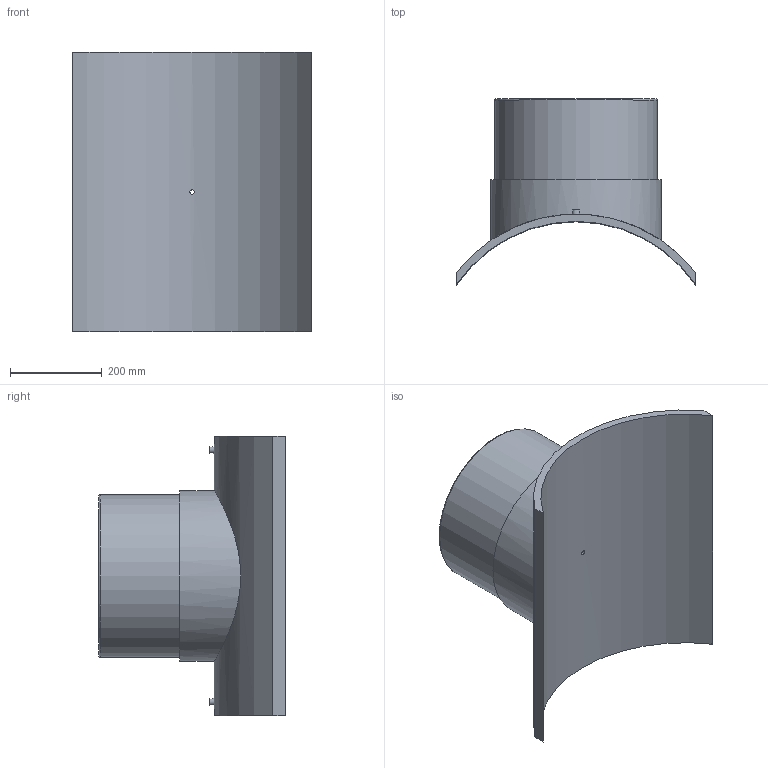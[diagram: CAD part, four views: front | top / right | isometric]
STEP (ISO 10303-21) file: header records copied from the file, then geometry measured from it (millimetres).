
FILE_DESCRIPTION(/* description */ ('PLASSON BRANCH SADDLE 630x355'),/* implementation_level */ '2;1');
FILE_NAME(/* name */ 'C:\Dropbox\KIMPROJECTS-Inventor 2019\99-16-3568-Processing\ElectroFusion Fittings\495803\stp\495803630355T.stp',/* time_stamp */ '2024-04-04T11:54:24+02:00',/* author */ ('KIM'),/* organization */ (''),/* preprocessor_version */ 'ST-DEVELOPER v17.2',/* originating_system */ 'Autodesk Inventor 2019',/* authorisation */ '');
FILE_SCHEMA (('AUTOMOTIVE_DESIGN { 1 0 10303 214 3 1 1 }'));
Length unit declared in the file: millimetre
Products named in the file (1): 495803630355T
Bounding box: 522 x 406.64 x 610 mm (x, y, z)
Volume: 16692832 mm3; surface area: 1358166 mm2
Topology: 1 solids, 1 shells, 29 faces, 60 edges, 43 vertices
Faces by surface type: plane 13, cylinder 12, torus 2, cone 2
Full cylindrical faces by diameter (mm): 4 x2, 9.6 x1, 10 x2, 16 x1, 284 x1, 355 x1, 372.75 x1
Entity records: 1118 total; most frequent: CARTESIAN_POINT 432, DIRECTION 139, ORIENTED_EDGE 120, EDGE_CURVE 60, AXIS2_PLACEMENT_3D 60, VERTEX_POINT 43, EDGE_LOOP 41, CIRCLE 30
